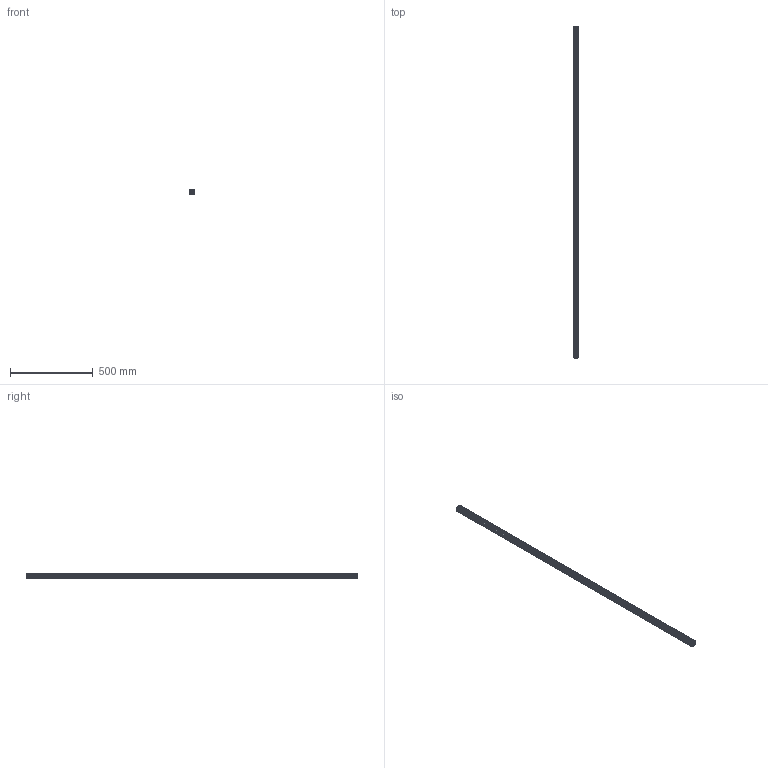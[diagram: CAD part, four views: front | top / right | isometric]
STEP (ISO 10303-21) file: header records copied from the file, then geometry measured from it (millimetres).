
FILE_DESCRIPTION (( 'STEP AP214' ), '1' );
FILE_NAME ('PEP3636-2000.STEP', '2022-12-12T03:59:40', ( '' ), ( '' ), 'SwSTEP 2.0', 'SolidWorks 2018', '' );
FILE_SCHEMA (( 'AUTOMOTIVE_DESIGN' ));
Length unit declared in the file: millimetre
Products named in the file (1): PEP3636-2000
Bounding box: 36 x 2000 x 36 mm (x, y, z)
Volume: 960276.4 mm3; surface area: 889337.3 mm2
Topology: 1 solids, 1 shells, 239 faces, 711 edges, 474 vertices
Faces by surface type: plane 122, cylinder 117
Entity records: 10762 total; most frequent: DIRECTION 1425, CARTESIAN_POINT 1425, ORIENTED_EDGE 1422, EDGE_CURVE 711, VECTOR 477, LINE 477, VERTEX_POINT 474, AXIS2_PLACEMENT_3D 474
